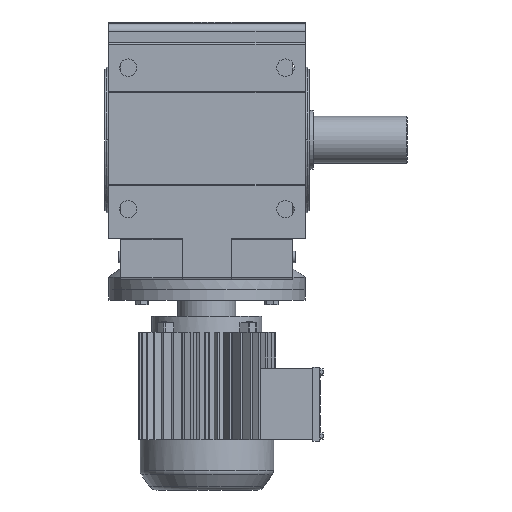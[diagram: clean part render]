
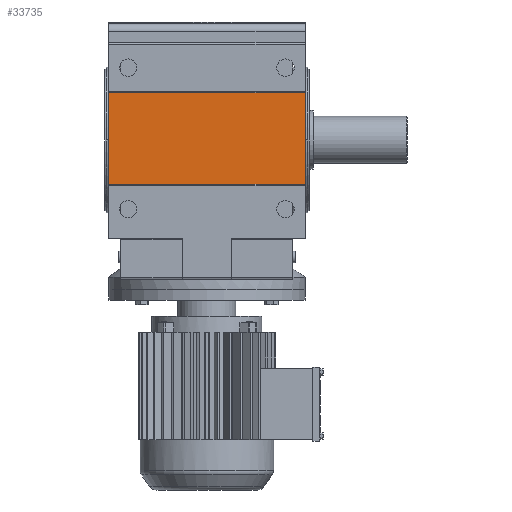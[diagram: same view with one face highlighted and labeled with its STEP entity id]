
A CAD part, front view. The second image highlights one B-rep face of the part: STEP entity #33735.
In plain terms, the highlighted planar face has unit normal (0, -1, 0).
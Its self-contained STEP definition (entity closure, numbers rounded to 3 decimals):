
#24527 = PLANE('',#24528);
#24528 = AXIS2_PLACEMENT_3D('',#24529,#24530,#24531);
#24529 = CARTESIAN_POINT('',(-125.,-172.5,312.375));
#24530 = DIRECTION('',(1.,0.,0.));
#24531 = DIRECTION('',(0.,0.,-1.));
#29598 = VERTEX_POINT('',#29599);
#29599 = CARTESIAN_POINT('',(-125.,-182.5,118.375));
#29618 = CYLINDRICAL_SURFACE('',#29619,2.);
#29619 = AXIS2_PLACEMENT_3D('',#29620,#29621,#29622);
#29620 = CARTESIAN_POINT('',(125.,-184.5,118.375));
#29621 = DIRECTION('',(-1.,0.,0.));
#29622 = DIRECTION('',(0.,0.,1.));
#29629 = EDGE_CURVE('',#29630,#29598,#29632,.T.);
#29630 = VERTEX_POINT('',#29631);
#29631 = CARTESIAN_POINT('',(-125.,-182.5,234.375));
#29632 = SURFACE_CURVE('',#29633,(#29637,#29644),.PCURVE_S1.);
#29633 = LINE('',#29634,#29635);
#29634 = CARTESIAN_POINT('',(-125.,-182.5,234.375));
#29635 = VECTOR('',#29636,1.);
#29636 = DIRECTION('',(0.,0.,-1.));
#29637 = PCURVE('',#24527,#29638);
#29638 = DEFINITIONAL_REPRESENTATION('',(#29639),#29643);
#29639 = LINE('',#29640,#29641);
#29640 = CARTESIAN_POINT('',(78.,-10.));
#29641 = VECTOR('',#29642,1.);
#29642 = DIRECTION('',(1.,0.));
#29643 = ( GEOMETRIC_REPRESENTATION_CONTEXT(2) 
PARAMETRIC_REPRESENTATION_CONTEXT() REPRESENTATION_CONTEXT('2D SPACE',''
  ) );
#29644 = PCURVE('',#29645,#29650);
#29645 = PLANE('',#29646);
#29646 = AXIS2_PLACEMENT_3D('',#29647,#29648,#29649);
#29647 = CARTESIAN_POINT('',(125.,-182.5,234.375));
#29648 = DIRECTION('',(0.,1.,0.));
#29649 = DIRECTION('',(0.,0.,1.));
#29650 = DEFINITIONAL_REPRESENTATION('',(#29651),#29655);
#29651 = LINE('',#29652,#29653);
#29652 = CARTESIAN_POINT('',(0.,-250.));
#29653 = VECTOR('',#29654,1.);
#29654 = DIRECTION('',(-1.,0.));
#29655 = ( GEOMETRIC_REPRESENTATION_CONTEXT(2) 
PARAMETRIC_REPRESENTATION_CONTEXT() REPRESENTATION_CONTEXT('2D SPACE',''
  ) );
#29678 = CYLINDRICAL_SURFACE('',#29679,2.);
#29679 = AXIS2_PLACEMENT_3D('',#29680,#29681,#29682);
#29680 = CARTESIAN_POINT('',(125.,-184.5,234.375));
#29681 = DIRECTION('',(-1.,0.,0.));
#29682 = DIRECTION('',(0.,0.,1.));
#30449 = PLANE('',#30450);
#30450 = AXIS2_PLACEMENT_3D('',#30451,#30452,#30453);
#30451 = CARTESIAN_POINT('',(125.,-172.5,312.375));
#30452 = DIRECTION('',(1.,0.,0.));
#30453 = DIRECTION('',(0.,0.,-1.));
#33735 = ADVANCED_FACE('',(#33736),#29645,.F.);
#33736 = FACE_BOUND('',#33737,.T.);
#33737 = EDGE_LOOP('',(#33738,#33760,#33761,#33783));
#33738 = ORIENTED_EDGE('',*,*,#33739,.T.);
#33739 = EDGE_CURVE('',#33740,#29630,#33742,.T.);
#33740 = VERTEX_POINT('',#33741);
#33741 = CARTESIAN_POINT('',(125.,-182.5,234.375));
#33742 = SURFACE_CURVE('',#33743,(#33747,#33754),.PCURVE_S1.);
#33743 = LINE('',#33744,#33745);
#33744 = CARTESIAN_POINT('',(125.,-182.5,234.375));
#33745 = VECTOR('',#33746,1.);
#33746 = DIRECTION('',(-1.,0.,0.));
#33747 = PCURVE('',#29645,#33748);
#33748 = DEFINITIONAL_REPRESENTATION('',(#33749),#33753);
#33749 = LINE('',#33750,#33751);
#33750 = CARTESIAN_POINT('',(0.,0.));
#33751 = VECTOR('',#33752,1.);
#33752 = DIRECTION('',(0.,-1.));
#33753 = ( GEOMETRIC_REPRESENTATION_CONTEXT(2) 
PARAMETRIC_REPRESENTATION_CONTEXT() REPRESENTATION_CONTEXT('2D SPACE',''
  ) );
#33754 = PCURVE('',#29678,#33755);
#33755 = DEFINITIONAL_REPRESENTATION('',(#33756),#33759);
#33756 = B_SPLINE_CURVE_WITH_KNOTS('',1,(#33757,#33758),.UNSPECIFIED.,
  .F.,.F.,(2,2),(0.,250.),.PIECEWISE_BEZIER_KNOTS.);
#33757 = CARTESIAN_POINT('',(1.571,0.));
#33758 = CARTESIAN_POINT('',(1.571,250.));
#33759 = ( GEOMETRIC_REPRESENTATION_CONTEXT(2) 
PARAMETRIC_REPRESENTATION_CONTEXT() REPRESENTATION_CONTEXT('2D SPACE',''
  ) );
#33760 = ORIENTED_EDGE('',*,*,#29629,.T.);
#33761 = ORIENTED_EDGE('',*,*,#33762,.F.);
#33762 = EDGE_CURVE('',#33763,#29598,#33765,.T.);
#33763 = VERTEX_POINT('',#33764);
#33764 = CARTESIAN_POINT('',(125.,-182.5,118.375));
#33765 = SURFACE_CURVE('',#33766,(#33770,#33777),.PCURVE_S1.);
#33766 = LINE('',#33767,#33768);
#33767 = CARTESIAN_POINT('',(125.,-182.5,118.375));
#33768 = VECTOR('',#33769,1.);
#33769 = DIRECTION('',(-1.,0.,0.));
#33770 = PCURVE('',#29645,#33771);
#33771 = DEFINITIONAL_REPRESENTATION('',(#33772),#33776);
#33772 = LINE('',#33773,#33774);
#33773 = CARTESIAN_POINT('',(-116.,0.));
#33774 = VECTOR('',#33775,1.);
#33775 = DIRECTION('',(0.,-1.));
#33776 = ( GEOMETRIC_REPRESENTATION_CONTEXT(2) 
PARAMETRIC_REPRESENTATION_CONTEXT() REPRESENTATION_CONTEXT('2D SPACE',''
  ) );
#33777 = PCURVE('',#29618,#33778);
#33778 = DEFINITIONAL_REPRESENTATION('',(#33779),#33782);
#33779 = B_SPLINE_CURVE_WITH_KNOTS('',1,(#33780,#33781),.UNSPECIFIED.,
  .F.,.F.,(2,2),(0.,250.),.PIECEWISE_BEZIER_KNOTS.);
#33780 = CARTESIAN_POINT('',(1.571,0.));
#33781 = CARTESIAN_POINT('',(1.571,250.));
#33782 = ( GEOMETRIC_REPRESENTATION_CONTEXT(2) 
PARAMETRIC_REPRESENTATION_CONTEXT() REPRESENTATION_CONTEXT('2D SPACE',''
  ) );
#33783 = ORIENTED_EDGE('',*,*,#33784,.F.);
#33784 = EDGE_CURVE('',#33740,#33763,#33785,.T.);
#33785 = SURFACE_CURVE('',#33786,(#33790,#33797),.PCURVE_S1.);
#33786 = LINE('',#33787,#33788);
#33787 = CARTESIAN_POINT('',(125.,-182.5,234.375));
#33788 = VECTOR('',#33789,1.);
#33789 = DIRECTION('',(0.,0.,-1.));
#33790 = PCURVE('',#29645,#33791);
#33791 = DEFINITIONAL_REPRESENTATION('',(#33792),#33796);
#33792 = LINE('',#33793,#33794);
#33793 = CARTESIAN_POINT('',(0.,0.));
#33794 = VECTOR('',#33795,1.);
#33795 = DIRECTION('',(-1.,0.));
#33796 = ( GEOMETRIC_REPRESENTATION_CONTEXT(2) 
PARAMETRIC_REPRESENTATION_CONTEXT() REPRESENTATION_CONTEXT('2D SPACE',''
  ) );
#33797 = PCURVE('',#30449,#33798);
#33798 = DEFINITIONAL_REPRESENTATION('',(#33799),#33803);
#33799 = LINE('',#33800,#33801);
#33800 = CARTESIAN_POINT('',(78.,-10.));
#33801 = VECTOR('',#33802,1.);
#33802 = DIRECTION('',(1.,0.));
#33803 = ( GEOMETRIC_REPRESENTATION_CONTEXT(2) 
PARAMETRIC_REPRESENTATION_CONTEXT() REPRESENTATION_CONTEXT('2D SPACE',''
  ) );
